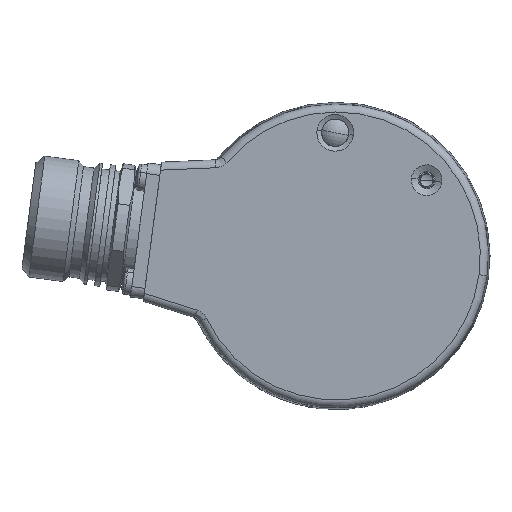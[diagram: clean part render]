
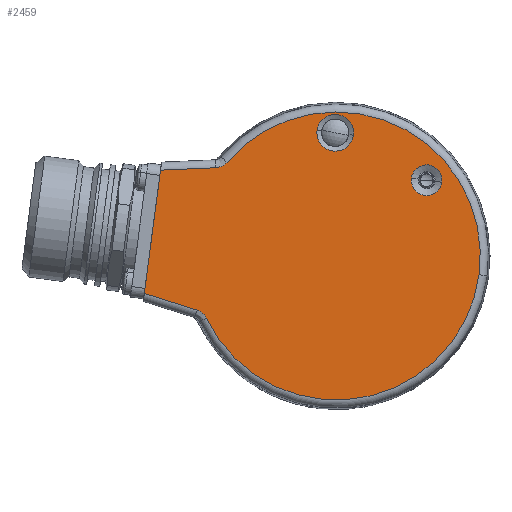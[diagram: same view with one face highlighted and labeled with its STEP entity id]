
A CAD part, left-side view. The second image highlights one B-rep face of the part: STEP entity #2459.
In plain terms, the highlighted planar face has unit normal (-1, 0, 0).
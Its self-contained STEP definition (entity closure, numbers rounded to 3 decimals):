
#96 = VERTEX_POINT ( 'NONE', #9083 ) ;
#2294 = VERTEX_POINT ( 'NONE', #4159 ) ;
#2312 = VERTEX_POINT ( 'NONE', #4206 ) ;
#2314 = EDGE_CURVE ( 'NONE', #2312, #2363, #4249, .T. ) ;
#2316 = VERTEX_POINT ( 'NONE', #4248 ) ;
#2318 = EDGE_CURVE ( 'NONE', #2399, #2316, #4247, .T. ) ;
#2337 = EDGE_CURVE ( 'NONE', #2338, #2294, #4327, .T. ) ;
#2338 = VERTEX_POINT ( 'NONE', #4322 ) ;
#2363 = VERTEX_POINT ( 'NONE', #4377 ) ;
#2365 = EDGE_CURVE ( 'NONE', #2419, #2363, #4375, .T. ) ;
#2382 = EDGE_CURVE ( 'NONE', #2423, #2424, #4519, .T. ) ;
#2389 = EDGE_CURVE ( 'NONE', #2312, #2423, #4512, .T. ) ;
#2391 = ORIENTED_EDGE ( 'NONE', *, *, #2392, .F. ) ;
#2392 = EDGE_CURVE ( 'NONE', #2419, #2316, #4503, .T. ) ;
#2393 = ORIENTED_EDGE ( 'NONE', *, *, #2365, .T. ) ;
#2399 = VERTEX_POINT ( 'NONE', #4521 ) ;
#2419 = VERTEX_POINT ( 'NONE', #4609 ) ;
#2423 = VERTEX_POINT ( 'NONE', #4654 ) ;
#2424 = VERTEX_POINT ( 'NONE', #4653 ) ;
#2428 = VERTEX_POINT ( 'NONE', #4647 ) ;
#2430 = EDGE_CURVE ( 'NONE', #96, #2428, #4646, .T. ) ;
#2431 = ORIENTED_EDGE ( 'NONE', *, *, #2318, .T. ) ;
#2458 = EDGE_CURVE ( 'NONE', #2294, #2338, #4732, .T. ) ;
#2459 = ADVANCED_FACE ( 'NONE', ( #4727, #4726, #4725 ), #4767, .F. ) ;
#2460 = EDGE_LOOP ( 'NONE', ( #2461, #2462 ) ) ;
#2461 = ORIENTED_EDGE ( 'NONE', *, *, #2337, .T. ) ;
#2462 = ORIENTED_EDGE ( 'NONE', *, *, #2458, .T. ) ;
#2463 = EDGE_LOOP ( 'NONE', ( #2464, #2505 ) ) ;
#2464 = ORIENTED_EDGE ( 'NONE', *, *, #2430, .T. ) ;
#2465 = EDGE_LOOP ( 'NONE', ( #2506, #2431, #2391, #2393, #2478, #2479, #2480 ) ) ;
#2478 = ORIENTED_EDGE ( 'NONE', *, *, #2314, .F. ) ;
#2479 = ORIENTED_EDGE ( 'NONE', *, *, #2389, .T. ) ;
#2480 = ORIENTED_EDGE ( 'NONE', *, *, #2382, .T. ) ;
#2505 = ORIENTED_EDGE ( 'NONE', *, *, #2546, .T. ) ;
#2506 = ORIENTED_EDGE ( 'NONE', *, *, #2539, .F. ) ;
#2539 = EDGE_CURVE ( 'NONE', #2399, #2424, #5001, .T. ) ;
#2546 = EDGE_CURVE ( 'NONE', #2428, #96, #5069, .T. ) ;
#4159 = CARTESIAN_POINT ( 'NONE',  ( -19., -19.919, 13.924 ) ) ;
#4206 = CARTESIAN_POINT ( 'NONE',  ( -19., 24.5, -11.752 ) ) ;
#4229 = DIRECTION ( 'NONE',  ( 0., 0.999, -0.044 ) ) ;
#4230 = VECTOR ( 'NONE', #4229, 1000. ) ;
#4231 = CARTESIAN_POINT ( 'NONE',  ( -19., 32.906, 16.206 ) ) ;
#4237 = CARTESIAN_POINT ( 'NONE',  ( -19., 26.303, -10.189 ) ) ;
#4238 = CARTESIAN_POINT ( 'NONE',  ( -19., 26.106, -10.251 ) ) ;
#4239 = CARTESIAN_POINT ( 'NONE',  ( -19., 25.919, -10.332 ) ) ;
#4240 = CARTESIAN_POINT ( 'NONE',  ( -19., 25.564, -10.53 ) ) ;
#4241 = CARTESIAN_POINT ( 'NONE',  ( -19., 25.394, -10.649 ) ) ;
#4242 = CARTESIAN_POINT ( 'NONE',  ( -19., 25.085, -10.917 ) ) ;
#4243 = CARTESIAN_POINT ( 'NONE',  ( -19., 24.946, -11.065 ) ) ;
#4244 = CARTESIAN_POINT ( 'NONE',  ( -19., 24.697, -11.39 ) ) ;
#4245 = CARTESIAN_POINT ( 'NONE',  ( -19., 24.589, -11.567 ) ) ;
#4246 = CARTESIAN_POINT ( 'NONE',  ( -19., 24.5, -11.752 ) ) ;
#4247 = LINE ( 'NONE', #4231, #4230 ) ;
#4248 = CARTESIAN_POINT ( 'NONE',  ( -19., 33.17, 16.195 ) ) ;
#4249 = B_SPLINE_CURVE_WITH_KNOTS ( 'NONE', 3,
 ( #4246, #4245, #4244, #4243, #4242, #4241, #4240, #4239, #4238, #4237 ),
 .UNSPECIFIED., .F., .F.,
 ( 4, 2, 2, 2, 4 ),
 ( 0., 0.001, 0.001, 0.002, 0.002 ),
 .UNSPECIFIED. ) ;
#4322 = CARTESIAN_POINT ( 'NONE',  ( -19., -14.17, 14.68 ) ) ;
#4323 = DIRECTION ( 'NONE',  ( 0., -0.991, -0.131 ) ) ;
#4324 = DIRECTION ( 'NONE',  ( 1., 0., 0. ) ) ;
#4325 = CARTESIAN_POINT ( 'NONE',  ( -19., -17.044, 14.302 ) ) ;
#4326 = AXIS2_PLACEMENT_3D ( 'NONE', #4325, #4324, #4323 ) ;
#4327 = CIRCLE ( 'NONE', #4326, 2.899 ) ;
#4372 = DIRECTION ( 'NONE',  ( 0., -0.954, -0.301 ) ) ;
#4373 = VECTOR ( 'NONE', #4372, 1000. ) ;
#4374 = CARTESIAN_POINT ( 'NONE',  ( -19., 25.648, -10.395 ) ) ;
#4375 = LINE ( 'NONE', #4374, #4373 ) ;
#4377 = CARTESIAN_POINT ( 'NONE',  ( -19., 26.303, -10.189 ) ) ;
#4496 = DIRECTION ( 'NONE',  ( 0., -0.131, 0.991 ) ) ;
#4497 = VECTOR ( 'NONE', #4496, 1000. ) ;
#4498 = CARTESIAN_POINT ( 'NONE',  ( -19., 36.43, -8.568 ) ) ;
#4499 = DIRECTION ( 'NONE',  ( 0., -0.991, -0.131 ) ) ;
#4500 = DIRECTION ( 'NONE',  ( -1., 0., 0. ) ) ;
#4501 = CARTESIAN_POINT ( 'NONE',  ( -19., 0., 0. ) ) ;
#4502 = AXIS2_PLACEMENT_3D ( 'NONE', #4501, #4500, #4499 ) ;
#4503 = LINE ( 'NONE', #4498, #4497 ) ;
#4512 = CIRCLE ( 'NONE', #4502, 27.173 ) ;
#4515 = DIRECTION ( 'NONE',  ( 0., -0.991, -0.131 ) ) ;
#4516 = DIRECTION ( 'NONE',  ( -1., 0., 0. ) ) ;
#4517 = CARTESIAN_POINT ( 'NONE',  ( -19., 0., 0. ) ) ;
#4518 = AXIS2_PLACEMENT_3D ( 'NONE', #4517, #4516, #4515 ) ;
#4519 = CIRCLE ( 'NONE', #4518, 27.173 ) ;
#4521 = CARTESIAN_POINT ( 'NONE',  ( -19., 22.77, 16.649 ) ) ;
#4609 = CARTESIAN_POINT ( 'NONE',  ( -19., 36.231, -7.058 ) ) ;
#4642 = DIRECTION ( 'NONE',  ( 0., -0.991, -0.131 ) ) ;
#4643 = DIRECTION ( 'NONE',  ( 1., 0., 0. ) ) ;
#4644 = CARTESIAN_POINT ( 'NONE',  ( -19., 0.203, 23.249 ) ) ;
#4645 = AXIS2_PLACEMENT_3D ( 'NONE', #4644, #4643, #4642 ) ;
#4646 = CIRCLE ( 'NONE', #4645, 3.466 ) ;
#4647 = CARTESIAN_POINT ( 'NONE',  ( -19., -3.233, 22.797 ) ) ;
#4653 = CARTESIAN_POINT ( 'NONE',  ( -19., 20.623, 17.693 ) ) ;
#4654 = CARTESIAN_POINT ( 'NONE',  ( -19., -26.94, -3.547 ) ) ;
#4725 = FACE_OUTER_BOUND ( 'NONE', #2465, .T. ) ;
#4726 = FACE_BOUND ( 'NONE', #2463, .T. ) ;
#4727 = FACE_BOUND ( 'NONE', #2460, .T. ) ;
#4728 = DIRECTION ( 'NONE',  ( 0., -0.991, -0.131 ) ) ;
#4729 = DIRECTION ( 'NONE',  ( 1., 0., 0. ) ) ;
#4730 = CARTESIAN_POINT ( 'NONE',  ( -19., -17.044, 14.302 ) ) ;
#4731 = AXIS2_PLACEMENT_3D ( 'NONE', #4730, #4729, #4728 ) ;
#4732 = CIRCLE ( 'NONE', #4731, 2.899 ) ;
#4763 = DIRECTION ( 'NONE',  ( 0., -0.991, -0.131 ) ) ;
#4764 = DIRECTION ( 'NONE',  ( 1., 0., 0. ) ) ;
#4765 = CARTESIAN_POINT ( 'NONE',  ( -19., 0., 0. ) ) ;
#4766 = AXIS2_PLACEMENT_3D ( 'NONE', #4765, #4764, #4763 ) ;
#4767 = PLANE ( 'NONE',  #4766 ) ;
#5001 = B_SPLINE_CURVE_WITH_KNOTS ( 'NONE', 3,
 ( #5044, #5043, #5042, #5041, #5040, #5039, #5038, #5037, #5036, #5035 ),
 .UNSPECIFIED., .F., .F.,
 ( 4, 2, 2, 2, 4 ),
 ( 0., 0.001, 0.001, 0.002, 0.002 ),
 .UNSPECIFIED. ) ;
#5024 = CARTESIAN_POINT ( 'NONE',  ( -19., 0.203, 23.249 ) ) ;
#5035 = CARTESIAN_POINT ( 'NONE',  ( -19., 20.623, 17.693 ) ) ;
#5036 = CARTESIAN_POINT ( 'NONE',  ( -19., 20.757, 17.536 ) ) ;
#5037 = CARTESIAN_POINT ( 'NONE',  ( -19., 20.905, 17.396 ) ) ;
#5038 = CARTESIAN_POINT ( 'NONE',  ( -19., 21.227, 17.148 ) ) ;
#5039 = CARTESIAN_POINT ( 'NONE',  ( -19., 21.404, 17.038 ) ) ;
#5040 = CARTESIAN_POINT ( 'NONE',  ( -19., 21.771, 16.859 ) ) ;
#5041 = CARTESIAN_POINT ( 'NONE',  ( -19., 21.962, 16.789 ) ) ;
#5042 = CARTESIAN_POINT ( 'NONE',  ( -19., 22.358, 16.688 ) ) ;
#5043 = CARTESIAN_POINT ( 'NONE',  ( -19., 22.564, 16.658 ) ) ;
#5044 = CARTESIAN_POINT ( 'NONE',  ( -19., 22.77, 16.649 ) ) ;
#5066 = DIRECTION ( 'NONE',  ( 0., -0.991, -0.131 ) ) ;
#5067 = DIRECTION ( 'NONE',  ( 1., 0., 0. ) ) ;
#5068 = AXIS2_PLACEMENT_3D ( 'NONE', #5024, #5067, #5066 ) ;
#5069 = CIRCLE ( 'NONE', #5068, 3.466 ) ;
#9083 = CARTESIAN_POINT ( 'NONE',  ( -19., 3.639, 23.702 ) ) ;
